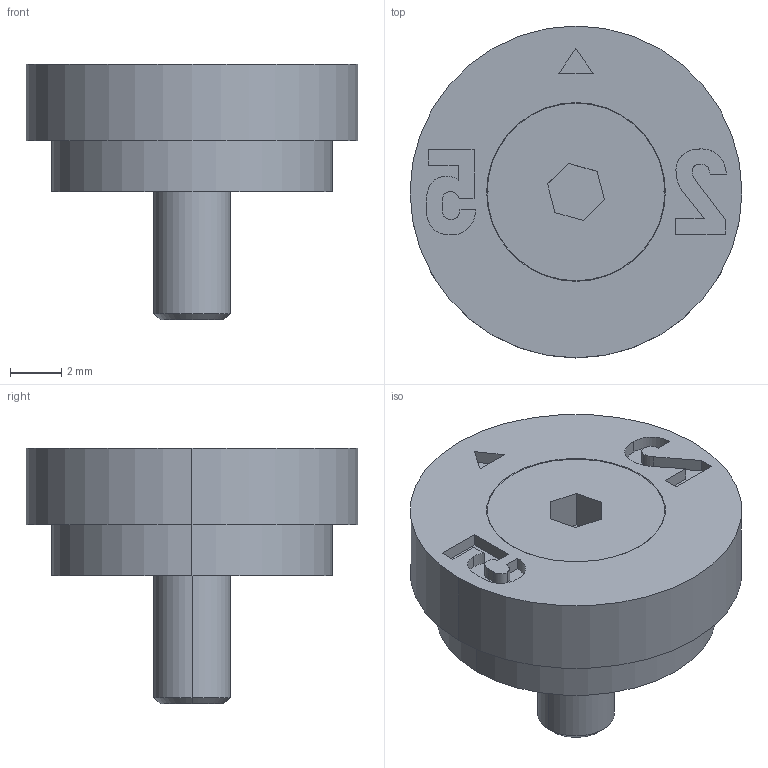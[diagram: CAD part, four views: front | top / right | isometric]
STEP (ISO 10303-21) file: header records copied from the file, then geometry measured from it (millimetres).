
FILE_DESCRIPTION (( 'STEP AP203' ), '1' );
FILE_NAME ('DLSP20-25.step', '2022-02-11T21:50:13', ( 'Microsoft Corporation' ), ( 'MS' ), 'SwSTEP 2.0', 'SolidWorks 2019', '' );
FILE_SCHEMA (( 'CONFIG_CONTROL_DESIGN' ));
Length unit declared in the file: millimetre
Products named in the file (1): DLSP20-25
Bounding box: 13 x 13 x 10.02 mm (x, y, z)
Volume: 613.1 mm3; surface area: 673.9 mm2
Topology: 2 solids, 2 shells, 68 faces, 171 edges, 112 vertices
Faces by surface type: plane 40, bspline 14, cylinder 8, cone 6
Entity records: 2628 total; most frequent: CARTESIAN_POINT 990, ORIENTED_EDGE 342, DIRECTION 275, EDGE_CURVE 171, LINE 121, VECTOR 121, VERTEX_POINT 112, AXIS2_PLACEMENT_3D 77
